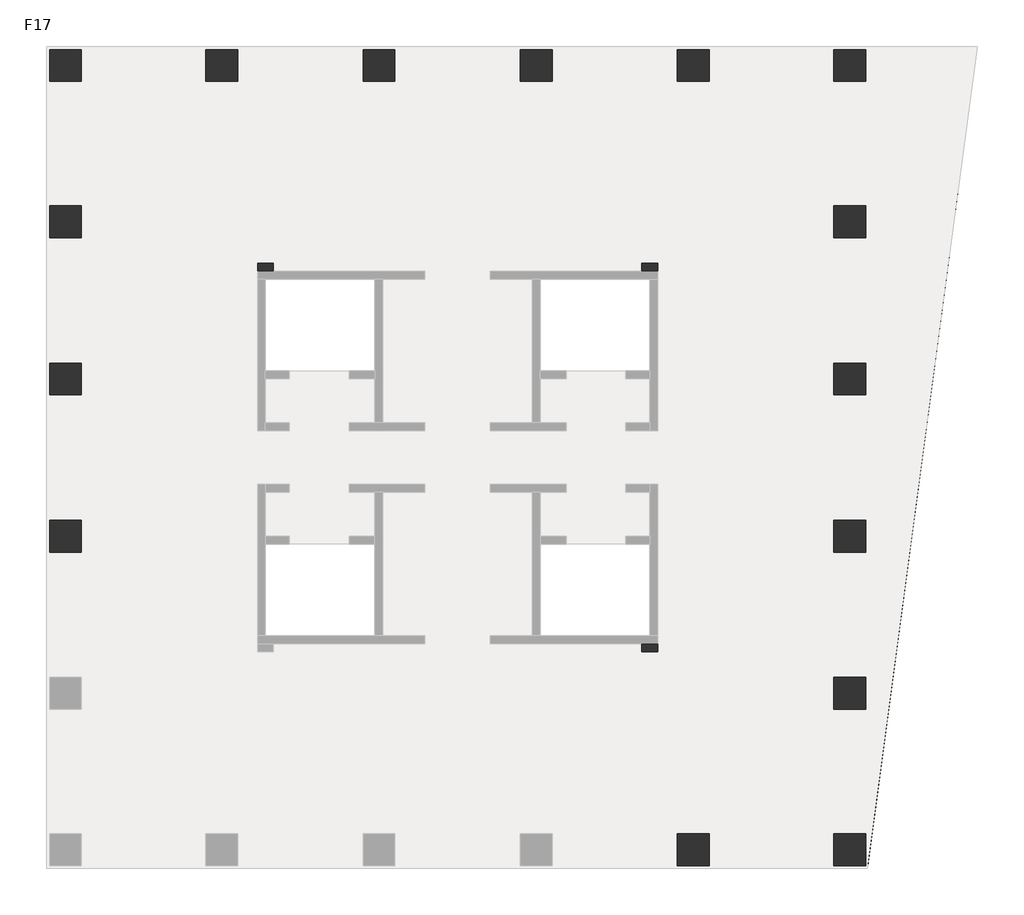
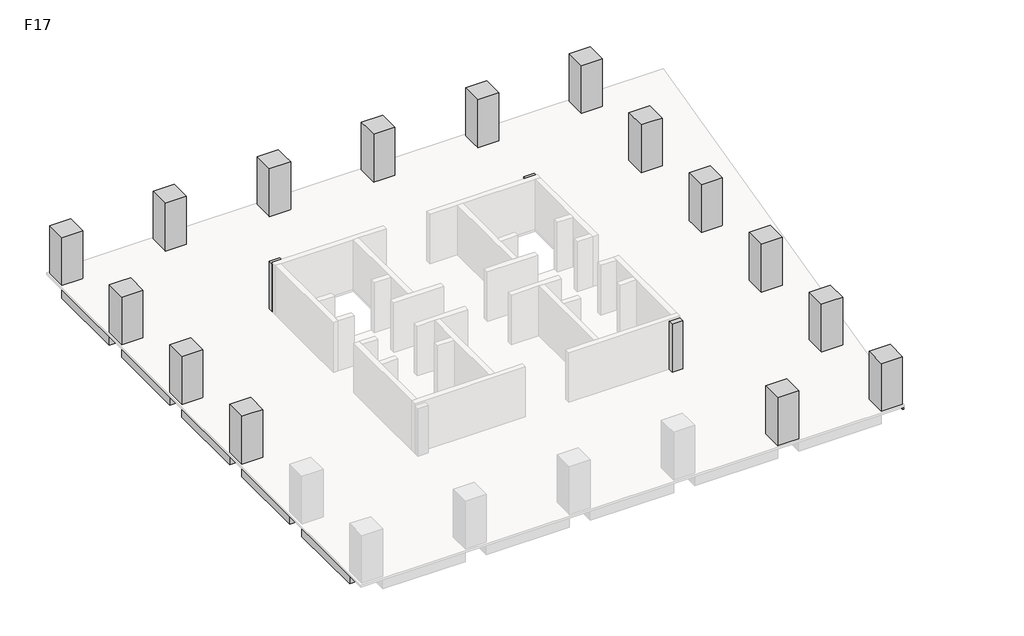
# One storey, part 2 of 2: 21 beams, 18 columns.
"""IFC4 building model written with IfcOpenShell, lengths in millimetres."""

from ifc_helpers import new_model, si_unit, frame, origin, place, context, project, spatial, polyline, outline, extrude, faceted_brep, element, save

model = new_model("IFC4")

# Units and contexts
model_context = context("Model", 3, world=origin())
ifc_project = project(units=[si_unit("LENGTHUNIT", "METRE", prefix="MILLI")], contexts=[model_context])

# Site, building, storey
site = spatial("IfcSite", under=ifc_project)
building = spatial("IfcBuilding", under=site)
storey = spatial("IfcBuildingStorey", under=building, Name="F17", Elevation=68000.0)

# Beams
placement = place(None, origin())
element("IfcBeam", 1, ObjectType="混凝土 - 矩形梁 : KL(5)-800x1000", at=placement, inside=storey, context=model_context, shape_type="SweptSolid", body=[
    extrude(outline(polyline([(25327.3257831, 27051.0498658), (25327.3257831, 26251.0498658), (19077.3257831, 26251.0498658), (19077.3257831, 27051.0498658), (25327.3257831, 27051.0498658)])), frame((0.0, 0.0, 67000.0), z_axis=(0.0, 0.0, 1.0), x_axis=(1.0, 0.0, 0.0)), (0.0, 0.0, 1.0), 840.0),
    extrude(outline(polyline([(-12472.6742169, 26251.0498658), (-12472.6742169, 27051.0498658), (-6222.6742169, 27051.0498658), (-6222.6742169, 26251.0498658), (-12472.6742169, 26251.0498658)])), frame((0.0, 0.0, 67000.0), z_axis=(0.0, 0.0, 1.0), x_axis=(1.0, 0.0, 0.0)), (0.0, 0.0, 1.0), 840.0),
    extrude(outline(polyline([(-4622.6742169, 26251.0498658), (-4622.6742169, 27051.0498658), (1677.3257831, 27051.0498658), (1677.3257831, 26251.0498658), (-4622.6742169, 26251.0498658)])), frame((0.0, 0.0, 67000.0), z_axis=(0.0, 0.0, 1.0), x_axis=(1.0, 0.0, 0.0)), (0.0, 0.0, 1.0), 840.0),
    extrude(outline(polyline([(3277.3257831, 26251.0498658), (3277.3257831, 27051.0498658), (9577.3257831, 27051.0498658), (9577.3257831, 26251.0498658), (3277.3257831, 26251.0498658)])), frame((0.0, 0.0, 67000.0), z_axis=(0.0, 0.0, 1.0), x_axis=(1.0, 0.0, 0.0)), (0.0, 0.0, 1.0), 840.0),
    extrude(outline(polyline([(11177.3257831, 26251.0498658), (11177.3257831, 27051.0498658), (17477.3257831, 27051.0498658), (17477.3257831, 26251.0498658), (11177.3257831, 26251.0498658)])), frame((0.0, 0.0, 67000.0), z_axis=(0.0, 0.0, 1.0), x_axis=(1.0, 0.0, 0.0)), (0.0, 0.0, 1.0), 840.0),
])
element("IfcBeam", 2, ObjectType="混凝土 - 矩形梁 : KL(5)-800x1000", at=placement, inside=storey, context=model_context, shape_type="Brep", body=[
    faceted_brep([(26927.3257831, 26251.0498658, 67000.0), (32422.0087099, 26251.0498658, 67000.0), (32422.0087099, 26251.0498658, 67840.0), (32018.4257091, 26251.0498658, 67840.0), (26927.3257831, 26251.0498658, 67840.0), (32422.0087099, 27051.0498658, 67000.0), (26927.3257831, 27051.0498658, 67000.0), (26927.3257831, 27051.0498658, 67840.0), (32422.0087099, 27051.0498658, 67840.0)], [[[0, 1, 2, 3, 4]], [[5, 1, 0, 6]], [[5, 6, 7, 8]], [[1, 5, 8, 2]], [[6, 0, 4, 7]], [[4, 3, 2, 8, 7]]]),
])
element("IfcBeam", 3, ObjectType="混凝土 - 矩形梁 : KL(5)-800x1000", at=placement, inside=storey, context=model_context, shape_type="Brep", body=[
    faceted_brep([(26127.3257831, -6098.9501342, 67000.0), (26127.3257831, -12348.9501342, 67000.0), (26127.3257831, -12348.9501342, 67840.0), (26127.3257831, -6098.9501342, 67840.0), (26927.3257831, -12348.9501342, 67000.0), (26927.3257831, -6098.9501342, 67000.0), (26927.3257831, -6098.9501342, 67840.0), (26927.3257831, -11700.7859463, 67840.0), (26927.3257831, -12348.9501342, 67840.0)], [[[0, 1, 2, 3]], [[4, 1, 0, 5]], [[4, 5, 6, 7, 8]], [[1, 4, 8, 2]], [[5, 0, 3, 6]], [[3, 2, 8, 7, 6]]]),
    faceted_brep([(26927.3257831, 25451.0498658, 67000.0), (26127.3257831, 25451.0498658, 67000.0), (26127.3257831, 25451.0498658, 67840.0), (26927.3257831, 25451.0498658, 67840.0), (26127.3257831, 19201.0498658, 67000.0), (26927.3257831, 19201.0498658, 67000.0), (26927.3257831, 19201.0498658, 67840.0), (26127.3257831, 19201.0498658, 67840.0)], [[[0, 1, 2, 3]], [[4, 5, 6, 7]], [[1, 4, 7, 2]], [[1, 0, 5, 4]], [[5, 0, 3, 6]], [[3, 2, 7, 6]]]),
    faceted_brep([(26927.3257831, 17601.0498658, 67000.0), (26127.3257831, 17601.0498658, 67000.0), (26127.3257831, 17601.0498658, 67840.0), (26927.3257831, 17601.0498658, 67840.0), (26127.3257831, 11301.0498658, 67000.0), (26927.3257831, 11301.0498658, 67000.0), (26927.3257831, 11301.0498658, 67840.0), (26127.3257831, 11301.0498658, 67840.0)], [[[0, 1, 2, 3]], [[4, 5, 6, 7]], [[1, 4, 7, 2]], [[1, 0, 5, 4]], [[5, 0, 3, 6]], [[3, 2, 7, 6]]]),
    faceted_brep([(26927.3257831, 9701.0498658, 67000.0), (26127.3257831, 9701.0498658, 67000.0), (26127.3257831, 9701.0498658, 67840.0), (26927.3257831, 9701.0498658, 67840.0), (26127.3257831, 3401.0498658, 67000.0), (26927.3257831, 3401.0498658, 67000.0), (26927.3257831, 3401.0498658, 67840.0), (26127.3257831, 3401.0498658, 67840.0)], [[[0, 1, 2, 3]], [[4, 5, 6, 7]], [[1, 4, 7, 2]], [[1, 0, 5, 4]], [[5, 0, 3, 6]], [[3, 2, 7, 6]]]),
    faceted_brep([(26927.3257831, 1801.0498658, 67000.0), (26127.3257831, 1801.0498658, 67000.0), (26127.3257831, 1801.0498658, 67840.0), (26927.3257831, 1801.0498658, 67840.0), (26127.3257831, -4498.9501342, 67000.0), (26927.3257831, -4498.9501342, 67000.0), (26927.3257831, -4498.9501342, 67840.0), (26127.3257831, -4498.9501342, 67840.0)], [[[0, 1, 2, 3]], [[4, 5, 6, 7]], [[1, 4, 7, 2]], [[1, 0, 5, 4]], [[5, 0, 3, 6]], [[3, 2, 7, 6]]]),
])
element("IfcBeam", 4, ObjectType="混凝土 - 矩形梁 : KL(5)-800x1000", at=placement, inside=storey, context=model_context, shape_type="SweptSolid", body=[
    extrude(outline(polyline([(-14072.6742169, 25451.0498658), (-13272.6742169, 25451.0498658), (-13272.6742169, 19201.0498658), (-14072.6742169, 19201.0498658), (-14072.6742169, 25451.0498658)])), frame((0.0, 0.0, 67000.0), z_axis=(0.0, 0.0, 1.0), x_axis=(1.0, 0.0, 0.0)), (0.0, 0.0, 1.0), 840.0),
    extrude(outline(polyline([(-13272.6742169, -12348.9501342), (-14072.6742169, -12348.9501342), (-14072.6742169, -6098.9501342), (-13272.6742169, -6098.9501342), (-13272.6742169, -12348.9501342)])), frame((0.0, 0.0, 67000.0), z_axis=(0.0, 0.0, 1.0), x_axis=(1.0, 0.0, 0.0)), (0.0, 0.0, 1.0), 840.0),
    extrude(outline(polyline([(-14072.6742169, 17601.0498658), (-13272.6742169, 17601.0498658), (-13272.6742169, 11301.0498658), (-14072.6742169, 11301.0498658), (-14072.6742169, 17601.0498658)])), frame((0.0, 0.0, 67000.0), z_axis=(0.0, 0.0, 1.0), x_axis=(1.0, 0.0, 0.0)), (0.0, 0.0, 1.0), 840.0),
    extrude(outline(polyline([(-14072.6742169, 9701.0498658), (-13272.6742169, 9701.0498658), (-13272.6742169, 3401.0498658), (-14072.6742169, 3401.0498658), (-14072.6742169, 9701.0498658)])), frame((0.0, 0.0, 67000.0), z_axis=(0.0, 0.0, 1.0), x_axis=(1.0, 0.0, 0.0)), (0.0, 0.0, 1.0), 840.0),
    extrude(outline(polyline([(-14072.6742169, 1801.0498658), (-13272.6742169, 1801.0498658), (-13272.6742169, -4498.9501342), (-14072.6742169, -4498.9501342), (-14072.6742169, 1801.0498658)])), frame((0.0, 0.0, 67000.0), z_axis=(0.0, 0.0, 1.0), x_axis=(1.0, 0.0, 0.0)), (0.0, 0.0, 1.0), 840.0),
])
element("IfcBeam", 5, ObjectType="混凝土 - 矩形梁 : L1-800x500", at=placement, inside=storey, context=model_context, shape_type="SweptSolid", body=[
    extrude(outline(polyline([(-12472.6742169, 2201.0498658), (-12472.6742169, 3001.0498658), (-3622.6742169, 3001.0498658), (-3622.6742169, 2201.0498658), (-12472.6742169, 2201.0498658)])), frame((0.0, 0.0, 67500.0), z_axis=(0.0, 0.0, 1.0), x_axis=(1.0, 0.0, 0.0)), (0.0, 0.0, 1.0), 340.0),
])
element("IfcBeam", 6, ObjectType="混凝土 - 矩形梁 : L1-800x500", at=placement, inside=storey, context=model_context, shape_type="SweptSolid", body=[
    extrude(outline(polyline([(-12472.6742169, 10101.0498658), (-12472.6742169, 10901.0498658), (-3622.6742169, 10901.0498658), (-3622.6742169, 10101.0498658), (-12472.6742169, 10101.0498658)])), frame((0.0, 0.0, 67500.0), z_axis=(0.0, 0.0, 1.0), x_axis=(1.0, 0.0, 0.0)), (0.0, 0.0, 1.0), 340.0),
])
element("IfcBeam", 7, ObjectType="混凝土 - 矩形梁 : L1-800x500", at=placement, inside=storey, context=model_context, shape_type="Brep", body=[
    faceted_brep([(-12472.6742169, 17789.85471, 67500.0), (-3622.6742169, 15588.3621727, 67500.0), (-3622.6742169, 15588.3621727, 67840.0), (-12472.6742169, 17789.85471, 67840.0), (-3173.6696907, 16301.0498658, 67500.0), (-3622.6742169, 16301.0498658, 67500.0), (-3622.6742169, 15901.0498658, 67500.0), (-12472.6742169, 18614.2350714, 67500.0), (-3746.9473979, 16443.6562607, 67500.0), (-12472.6742169, 18614.2350714, 67840.0), (-3746.9473979, 16443.6562607, 67840.0), (-3173.6696907, 16301.0498658, 67840.0), (-3622.6742169, 16301.0498658, 67840.0)], [[[0, 1, 2, 3]], [[4, 5, 6, 1, 0, 7, 8]], [[4, 8, 7, 9, 10, 11]], [[6, 5, 12, 2, 1]], [[5, 4, 11, 12]], [[7, 0, 3, 9]], [[3, 2, 12, 11, 10, 9]]]),
])
element("IfcBeam", 8, ObjectType="混凝土 - 矩形梁 : L1-800x500", at=placement, inside=storey, context=model_context, shape_type="SweptSolid", body=[
    extrude(outline(polyline([(-3173.6696907, 16301.0498658), (-3746.9473979, 16443.6562607), (-5661.5624638, 25451.0498658), (-4843.6893517, 25451.0498658), (-2898.7618154, 16301.0498658), (-3173.6696907, 16301.0498658)])), frame((0.0, 0.0, 67500.0), z_axis=(0.0, 0.0, 1.0), x_axis=(1.0, 0.0, 0.0)), (0.0, 0.0, 1.0), 340.0),
])
element("IfcBeam", 9, ObjectType="混凝土 - 矩形梁 : L1-800x500", at=placement, inside=storey, context=model_context, shape_type="SweptSolid", body=[
    extrude(outline(polyline([(2077.3257831, 25451.0498658), (2877.3257831, 25451.0498658), (2877.3257831, 15901.0498658), (2077.3257831, 15901.0498658), (2077.3257831, 25451.0498658)])), frame((0.0, 0.0, 67500.0), z_axis=(0.0, 0.0, 1.0), x_axis=(1.0, 0.0, 0.0)), (0.0, 0.0, 1.0), 340.0),
])
element("IfcBeam", 10, ObjectType="混凝土 - 矩形梁 : L1-800x500", at=placement, inside=storey, context=model_context, shape_type="SweptSolid", body=[
    extrude(outline(polyline([(9977.3257831, 25451.0498658), (10777.3257831, 25451.0498658), (10777.3257831, 15901.0498658), (9977.3257831, 15901.0498658), (9977.3257831, 25451.0498658)])), frame((0.0, 0.0, 67500.0), z_axis=(0.0, 0.0, 1.0), x_axis=(1.0, 0.0, 0.0)), (0.0, 0.0, 1.0), 340.0),
])
element("IfcBeam", 11, ObjectType="混凝土 - 矩形梁 : L1-800x500", at=placement, inside=storey, context=model_context, shape_type="Brep", body=[
    faceted_brep([(25327.3257831, -4687.7549784, 67500.0), (16477.3257831, -2486.2624411, 67500.0), (16477.3257831, -2486.2624411, 67840.0), (25327.3257831, -4687.7549784, 67840.0), (16028.3212569, -3198.9501342, 67500.0), (16477.3257831, -3198.9501342, 67500.0), (16477.3257831, -2798.9501342, 67500.0), (25327.3257831, -5512.1353397, 67500.0), (16601.5989641, -3341.556529, 67500.0), (25327.3257831, -5512.1353397, 67840.0), (16601.5989641, -3341.556529, 67840.0), (16028.3212569, -3198.9501342, 67840.0), (16477.3257831, -3198.9501342, 67840.0)], [[[0, 1, 2, 3]], [[4, 5, 6, 1, 0, 7, 8]], [[4, 8, 7, 9, 10, 11]], [[6, 5, 12, 2, 1]], [[5, 4, 11, 12]], [[7, 0, 3, 9]], [[3, 2, 12, 11, 10, 9]]]),
])
element("IfcBeam", 12, ObjectType="混凝土 - 矩形梁 : L1-800x500", at=placement, inside=storey, context=model_context, shape_type="SweptSolid", body=[
    extrude(outline(polyline([(16028.3212569, -3198.9501342), (16601.5989641, -3341.556529), (18516.21403, -12348.9501342), (17698.3409179, -12348.9501342), (15753.4133817, -3198.9501342), (16028.3212569, -3198.9501342)])), frame((0.0, 0.0, 67500.0), z_axis=(0.0, 0.0, 1.0), x_axis=(1.0, 0.0, 0.0)), (0.0, 0.0, 1.0), 340.0),
])
element("IfcBeam", 13, ObjectType="混凝土 - 矩形梁 : L1-800x500", at=placement, inside=storey, context=model_context, shape_type="SweptSolid", body=[
    extrude(outline(polyline([(25327.3257831, 3001.0498658), (25327.3257831, 2201.0498658), (16477.3257831, 2201.0498658), (16477.3257831, 3001.0498658), (25327.3257831, 3001.0498658)])), frame((0.0, 0.0, 67500.0), z_axis=(0.0, 0.0, 1.0), x_axis=(1.0, 0.0, 0.0)), (0.0, 0.0, 1.0), 340.0),
])
element("IfcBeam", 14, ObjectType="混凝土 - 矩形梁 : L1-800x500", at=placement, inside=storey, context=model_context, shape_type="SweptSolid", body=[
    extrude(outline(polyline([(25327.3257831, 10901.0498658), (25327.3257831, 10101.0498658), (16477.3257831, 10101.0498658), (16477.3257831, 10901.0498658), (25327.3257831, 10901.0498658)])), frame((0.0, 0.0, 67500.0), z_axis=(0.0, 0.0, 1.0), x_axis=(1.0, 0.0, 0.0)), (0.0, 0.0, 1.0), 340.0),
])
element("IfcBeam", 15, ObjectType="混凝土 - 矩形梁 : L1-800x500", at=placement, inside=storey, context=model_context, shape_type="Brep", body=[
    faceted_brep([(25327.3257831, 18610.6867312, 67500.0), (16590.8993897, 16393.3196262, 67500.0), (16227.3565337, 16301.0498658, 67500.0), (16227.3565337, 16301.0498658, 67840.0), (16590.8993897, 16393.3196262, 67840.0), (25327.3257831, 18610.6867312, 67840.0), (16477.3257831, 16301.0498658, 67500.0), (25327.3257831, 17785.3216299, 67500.0), (16477.3257831, 15539.1287365, 67500.0), (16477.3257831, 15901.0498658, 67500.0), (25327.3257831, 17785.3216299, 67840.0), (16477.3257831, 15539.1287365, 67840.0), (16477.3257831, 16301.0498658, 67840.0)], [[[0, 1, 2, 3, 4, 5]], [[6, 2, 1, 0, 7, 8, 9]], [[8, 7, 10, 11]], [[9, 8, 11, 12, 6]], [[2, 6, 12, 3]], [[7, 0, 5, 10]], [[5, 4, 3, 12, 11, 10]]]),
])
element("IfcBeam", 16, ObjectType="混凝土 - 矩形梁 : L1-800x500", at=placement, inside=storey, context=model_context, shape_type="SweptSolid", body=[
    extrude(outline(polyline([(16590.8993897, 16393.3196262), (16227.3565337, 16301.0498658), (15753.4133817, 16301.0498658), (17698.3409179, 25451.0498658), (18516.21403, 25451.0498658), (16590.8993897, 16393.3196262)])), frame((0.0, 0.0, 67500.0), z_axis=(0.0, 0.0, 1.0), x_axis=(1.0, 0.0, 0.0)), (0.0, 0.0, 1.0), 340.0),
])
element("IfcBeam", 17, ObjectType="混凝土 - 矩形梁 : L2-400x400", at=placement, inside=storey, context=model_context, shape_type="Brep", body=[
    faceted_brep([(32422.0087099, 26251.0498658, 67600.0), (27029.3257831, -13948.9501342, 67600.0), (26927.3257831, -13935.2672073, 67600.0), (26927.3257831, -11700.7859463, 67600.0), (27759.2793677, -5498.9501342, 67600.0), (27812.9379042, -5098.9501342, 67600.0), (28819.0354652, 2401.0498658, 67600.0), (28872.6940018, 2801.0498658, 67600.0), (29878.7915628, 10301.0498658, 67600.0), (29932.4500994, 10701.0498658, 67600.0), (30938.5476603, 18201.0498658, 67600.0), (30992.2061969, 18601.0498658, 67600.0), (32018.4257091, 26251.0498658, 67600.0), (32422.0087099, 26251.0498658, 67840.0), (27029.3257831, -13948.9501342, 67840.0), (32018.4257091, 26251.0498658, 67840.0), (26927.3257831, -13935.2672073, 67840.0), (26927.3257831, -12348.9501342, 67840.0), (26927.3257831, -11700.7859463, 67840.0), (27759.2793677, -5498.9501342, 67840.0), (27812.9379042, -5098.9501342, 67840.0), (28819.0354652, 2401.0498658, 67840.0), (28872.6940018, 2801.0498658, 67840.0), (29878.7915628, 10301.0498658, 67840.0), (29932.4500994, 10701.0498658, 67840.0), (30938.5476603, 18201.0498658, 67840.0), (30992.2061969, 18601.0498658, 67840.0)], [[[0, 1, 2, 3, 4, 5, 6, 7, 8, 9, 10, 11, 12]], [[1, 0, 13, 14]], [[0, 12, 15, 13]], [[3, 2, 16, 17, 18]], [[12, 11, 10, 9, 8, 7, 6, 5, 4, 3, 18, 19, 20, 21, 22, 23, 24, 25, 26, 15]], [[2, 1, 14, 16]], [[14, 13, 15, 26, 25, 24, 23, 22, 21, 20, 19, 18, 17, 16]]]),
])
element("IfcBeam", 18, ObjectType="混凝土 - 矩形梁 : L2-400x400", at=placement, inside=storey, context=model_context, shape_type="SweptSolid", body=[
    extrude(outline(polyline([(30938.5476603, 18201.0498658), (26927.3257831, 18201.0498658), (26927.3257831, 18601.0498658), (30992.2061969, 18601.0498658), (30938.5476603, 18201.0498658)])), frame((0.0, 0.0, 67600.0), z_axis=(0.0, 0.0, 1.0), x_axis=(1.0, 0.0, 0.0)), (0.0, 0.0, 1.0), 240.0),
])
element("IfcBeam", 19, ObjectType="混凝土 - 矩形梁 : L2-400x400", at=placement, inside=storey, context=model_context, shape_type="SweptSolid", body=[
    extrude(outline(polyline([(29878.7915628, 10301.0498658), (26927.3257831, 10301.0498658), (26927.3257831, 10701.0498658), (29932.4500994, 10701.0498658), (29878.7915628, 10301.0498658)])), frame((0.0, 0.0, 67600.0), z_axis=(0.0, 0.0, 1.0), x_axis=(1.0, 0.0, 0.0)), (0.0, 0.0, 1.0), 240.0),
])
element("IfcBeam", 20, ObjectType="混凝土 - 矩形梁 : L2-400x400", at=placement, inside=storey, context=model_context, shape_type="SweptSolid", body=[
    extrude(outline(polyline([(28819.0354652, 2401.0498658), (26927.3257831, 2401.0498658), (26927.3257831, 2801.0498658), (28872.6940018, 2801.0498658), (28819.0354652, 2401.0498658)])), frame((0.0, 0.0, 67600.0), z_axis=(0.0, 0.0, 1.0), x_axis=(1.0, 0.0, 0.0)), (0.0, 0.0, 1.0), 240.0),
])
element("IfcBeam", 21, ObjectType="混凝土 - 矩形梁 : L2-400x400", at=placement, inside=storey, context=model_context, shape_type="SweptSolid", body=[
    extrude(outline(polyline([(27759.2793677, -5498.9501342), (26927.3257831, -5498.9501342), (26927.3257831, -5098.9501342), (27812.9379042, -5098.9501342), (27759.2793677, -5498.9501342)])), frame((0.0, 0.0, 67600.0), z_axis=(0.0, 0.0, 1.0), x_axis=(1.0, 0.0, 0.0)), (0.0, 0.0, 1.0), 240.0),
])

# Columns
element("IfcColumn", 22, ObjectType="混凝土 - 矩形 - 柱 : Z1-1600x1600", at=placement, inside=storey, context=model_context, shape_type="SweptSolid", body=[
    extrude(outline(polyline([(-12472.6742169, 27051.0498658), (-12472.6742169, 25451.0498658), (-14072.6742169, 25451.0498658), (-14072.6742169, 27051.0498658), (-12472.6742169, 27051.0498658)])), frame((0.0, 0.0, 68000.0), z_axis=(0.0, 0.0, 1.0), x_axis=(1.0, 0.0, 0.0)), (0.0, 0.0, 1.0), 3840.0),
])
element("IfcColumn", 23, ObjectType="混凝土 - 矩形 - 柱 : Z1-1600x1600", at=placement, inside=storey, context=model_context, shape_type="Brep", body=[
    faceted_brep([(-4622.6742169, 27051.0498658, 68000.0), (-4622.6742169, 25451.0498658, 68000.0), (-6222.6742169, 25451.0498658, 68000.0), (-6222.6742169, 27051.0498658, 68000.0), (-4622.6742169, 27051.0498658, 71000.0), (-4622.6742169, 27051.0498658, 71840.0), (-4622.6742169, 26251.0498658, 71840.0), (-4622.6742169, 25451.0498658, 71840.0), (-6222.6742169, 25451.0498658, 71840.0), (-6222.6742169, 26251.0498658, 71840.0), (-6222.6742169, 27051.0498658, 71840.0), (-6222.6742169, 27051.0498658, 71000.0)], [[[0, 1, 2, 3]], [[1, 0, 4, 5, 6, 7]], [[2, 1, 7, 8]], [[3, 2, 8, 9, 10, 11]], [[0, 3, 11, 10, 5, 4]], [[7, 6, 5, 10, 9, 8]]]),
])
element("IfcColumn", 24, ObjectType="混凝土 - 矩形 - 柱 : Z1-1600x1600", at=placement, inside=storey, context=model_context, shape_type="Brep", body=[
    faceted_brep([(-12472.6742169, 19201.0498658, 68000.0), (-12472.6742169, 17601.0498658, 68000.0), (-14072.6742169, 17601.0498658, 68000.0), (-14072.6742169, 19201.0498658, 68000.0), (-12472.6742169, 19201.0498658, 71840.0), (-12472.6742169, 17601.0498658, 71840.0), (-13272.6742169, 17601.0498658, 71840.0), (-14072.6742169, 17601.0498658, 71840.0), (-14072.6742169, 17601.0498658, 71000.0), (-14072.6742169, 19201.0498658, 71840.0), (-14072.6742169, 19201.0498658, 71000.0), (-13272.6742169, 19201.0498658, 71840.0)], [[[0, 1, 2, 3]], [[1, 0, 4, 5]], [[2, 1, 5, 6, 7, 8]], [[3, 2, 8, 7, 9, 10]], [[0, 3, 10, 9, 11, 4]], [[5, 4, 11, 9, 7, 6]]]),
])
element("IfcColumn", 25, ObjectType="混凝土 - 矩形 - 柱 : Z1-1600x1600", at=placement, inside=storey, context=model_context, shape_type="Brep", body=[
    faceted_brep([(-12472.6742169, 11301.0498658, 68000.0), (-12472.6742169, 9701.0498658, 68000.0), (-14072.6742169, 9701.0498658, 68000.0), (-14072.6742169, 11301.0498658, 68000.0), (-12472.6742169, 11301.0498658, 71840.0), (-12472.6742169, 9701.0498658, 71840.0), (-13272.6742169, 9701.0498658, 71840.0), (-14072.6742169, 9701.0498658, 71840.0), (-14072.6742169, 9701.0498658, 71000.0), (-14072.6742169, 11301.0498658, 71840.0), (-14072.6742169, 11301.0498658, 71000.0), (-13272.6742169, 11301.0498658, 71840.0)], [[[0, 1, 2, 3]], [[1, 0, 4, 5]], [[2, 1, 5, 6, 7, 8]], [[3, 2, 8, 7, 9, 10]], [[0, 3, 10, 9, 11, 4]], [[5, 4, 11, 9, 7, 6]]]),
])
element("IfcColumn", 26, ObjectType="混凝土 - 矩形 - 柱 : Z1-1600x1600", at=placement, inside=storey, context=model_context, shape_type="Brep", body=[
    faceted_brep([(-12472.6742169, 3401.0498658, 68000.0), (-12472.6742169, 1801.0498658, 68000.0), (-14072.6742169, 1801.0498658, 68000.0), (-14072.6742169, 3401.0498658, 68000.0), (-12472.6742169, 3401.0498658, 71840.0), (-12472.6742169, 1801.0498658, 71840.0), (-13272.6742169, 1801.0498658, 71840.0), (-14072.6742169, 1801.0498658, 71840.0), (-14072.6742169, 1801.0498658, 71000.0), (-14072.6742169, 3401.0498658, 71840.0), (-14072.6742169, 3401.0498658, 71000.0), (-13272.6742169, 3401.0498658, 71840.0)], [[[0, 1, 2, 3]], [[1, 0, 4, 5]], [[2, 1, 5, 6, 7, 8]], [[3, 2, 8, 7, 9, 10]], [[0, 3, 10, 9, 11, 4]], [[5, 4, 11, 9, 7, 6]]]),
])
element("IfcColumn", 27, ObjectType="混凝土 - 矩形 - 柱 : Z1-1600x1600", at=placement, inside=storey, context=model_context, shape_type="SweptSolid", body=[
    extrude(outline(polyline([(25327.3257831, 27051.0498658), (26927.3257831, 27051.0498658), (26927.3257831, 25451.0498658), (25327.3257831, 25451.0498658), (25327.3257831, 27051.0498658)])), frame((0.0, 0.0, 68000.0), z_axis=(0.0, 0.0, 1.0), x_axis=(1.0, 0.0, 0.0)), (0.0, 0.0, 1.0), 3840.0),
])
element("IfcColumn", 28, ObjectType="混凝土 - 矩形 - 柱 : Z1-1600x1600", at=placement, inside=storey, context=model_context, shape_type="Brep", body=[
    faceted_brep([(25327.3257831, 19201.0498658, 68000.0), (26927.3257831, 19201.0498658, 68000.0), (26927.3257831, 17601.0498658, 68000.0), (25327.3257831, 17601.0498658, 68000.0), (25327.3257831, 17601.0498658, 71840.0), (25327.3257831, 19201.0498658, 71840.0), (26927.3257831, 17601.0498658, 71000.0), (26927.3257831, 17601.0498658, 71840.0), (26127.3257831, 17601.0498658, 71840.0), (26927.3257831, 19201.0498658, 71000.0), (26927.3257831, 19201.0498658, 71840.0), (26127.3257831, 19201.0498658, 71840.0)], [[[0, 1, 2, 3]], [[0, 3, 4, 5]], [[3, 2, 6, 7, 8, 4]], [[2, 1, 9, 10, 7, 6]], [[1, 0, 5, 11, 10, 9]], [[5, 4, 8, 7, 10, 11]]]),
])
element("IfcColumn", 29, ObjectType="混凝土 - 矩形 - 柱 : Z1-1600x1600", at=placement, inside=storey, context=model_context, shape_type="Brep", body=[
    faceted_brep([(25327.3257831, 11301.0498658, 68000.0), (26927.3257831, 11301.0498658, 68000.0), (26927.3257831, 9701.0498658, 68000.0), (25327.3257831, 9701.0498658, 68000.0), (25327.3257831, 9701.0498658, 71840.0), (25327.3257831, 11301.0498658, 71840.0), (26927.3257831, 9701.0498658, 71000.0), (26927.3257831, 9701.0498658, 71840.0), (26127.3257831, 9701.0498658, 71840.0), (26927.3257831, 11301.0498658, 71000.0), (26927.3257831, 11301.0498658, 71840.0), (26127.3257831, 11301.0498658, 71840.0)], [[[0, 1, 2, 3]], [[0, 3, 4, 5]], [[3, 2, 6, 7, 8, 4]], [[2, 1, 9, 10, 7, 6]], [[1, 0, 5, 11, 10, 9]], [[5, 4, 8, 7, 10, 11]]]),
])
element("IfcColumn", 30, ObjectType="混凝土 - 矩形 - 柱 : Z1-1600x1600", at=placement, inside=storey, context=model_context, shape_type="Brep", body=[
    faceted_brep([(25327.3257831, 3401.0498658, 68000.0), (26927.3257831, 3401.0498658, 68000.0), (26927.3257831, 1801.0498658, 68000.0), (25327.3257831, 1801.0498658, 68000.0), (25327.3257831, 1801.0498658, 71840.0), (25327.3257831, 3401.0498658, 71840.0), (26927.3257831, 1801.0498658, 71000.0), (26927.3257831, 1801.0498658, 71840.0), (26127.3257831, 1801.0498658, 71840.0), (26927.3257831, 3401.0498658, 71000.0), (26927.3257831, 3401.0498658, 71840.0), (26127.3257831, 3401.0498658, 71840.0)], [[[0, 1, 2, 3]], [[0, 3, 4, 5]], [[3, 2, 6, 7, 8, 4]], [[2, 1, 9, 10, 7, 6]], [[1, 0, 5, 11, 10, 9]], [[5, 4, 8, 7, 10, 11]]]),
])
element("IfcColumn", 31, ObjectType="混凝土 - 矩形 - 柱 : Z1-1600x1600", at=placement, inside=storey, context=model_context, shape_type="Brep", body=[
    faceted_brep([(25327.3257831, -4498.9501342, 68000.0), (26927.3257831, -4498.9501342, 68000.0), (26927.3257831, -6098.9501342, 68000.0), (25327.3257831, -6098.9501342, 68000.0), (25327.3257831, -6098.9501342, 71840.0), (25327.3257831, -4498.9501342, 71840.0), (26927.3257831, -6098.9501342, 71000.0), (26927.3257831, -6098.9501342, 71840.0), (26127.3257831, -6098.9501342, 71840.0), (26927.3257831, -4498.9501342, 71000.0), (26927.3257831, -4498.9501342, 71840.0), (26127.3257831, -4498.9501342, 71840.0)], [[[0, 1, 2, 3]], [[0, 3, 4, 5]], [[3, 2, 6, 7, 8, 4]], [[2, 1, 9, 10, 7, 6]], [[1, 0, 5, 11, 10, 9]], [[5, 4, 8, 7, 10, 11]]]),
])
element("IfcColumn", 32, ObjectType="混凝土 - 矩形 - 柱 : Z1-1600x1600", at=placement, inside=storey, context=model_context, shape_type="SweptSolid", body=[
    extrude(outline(polyline([(25327.3257831, -12348.9501342), (26927.3257831, -12348.9501342), (26927.3257831, -13948.9501342), (25327.3257831, -13948.9501342), (25327.3257831, -12348.9501342)])), frame((0.0, 0.0, 68000.0), z_axis=(0.0, 0.0, 1.0), x_axis=(1.0, 0.0, 0.0)), (0.0, 0.0, 1.0), 3840.0),
])
element("IfcColumn", 33, ObjectType="混凝土 - 矩形 - 柱 : Z1-1600x1600", at=placement, inside=storey, context=model_context, shape_type="Brep", body=[
    faceted_brep([(3277.3257831, 27051.0498658, 68000.0), (3277.3257831, 25451.0498658, 68000.0), (1677.3257831, 25451.0498658, 68000.0), (1677.3257831, 27051.0498658, 68000.0), (3277.3257831, 27051.0498658, 71000.0), (3277.3257831, 27051.0498658, 71840.0), (3277.3257831, 26251.0498658, 71840.0), (3277.3257831, 25451.0498658, 71840.0), (1677.3257831, 25451.0498658, 71840.0), (1677.3257831, 26251.0498658, 71840.0), (1677.3257831, 27051.0498658, 71840.0), (1677.3257831, 27051.0498658, 71000.0)], [[[0, 1, 2, 3]], [[1, 0, 4, 5, 6, 7]], [[2, 1, 7, 8]], [[3, 2, 8, 9, 10, 11]], [[0, 3, 11, 10, 5, 4]], [[7, 6, 5, 10, 9, 8]]]),
])
element("IfcColumn", 34, ObjectType="混凝土 - 矩形 - 柱 : Z1-1600x1600", at=placement, inside=storey, context=model_context, shape_type="Brep", body=[
    faceted_brep([(11177.3257831, 27051.0498658, 68000.0), (11177.3257831, 25451.0498658, 68000.0), (9577.3257831, 25451.0498658, 68000.0), (9577.3257831, 27051.0498658, 68000.0), (11177.3257831, 27051.0498658, 71000.0), (11177.3257831, 27051.0498658, 71840.0), (11177.3257831, 26251.0498658, 71840.0), (11177.3257831, 25451.0498658, 71840.0), (9577.3257831, 25451.0498658, 71840.0), (9577.3257831, 26251.0498658, 71840.0), (9577.3257831, 27051.0498658, 71840.0), (9577.3257831, 27051.0498658, 71000.0)], [[[0, 1, 2, 3]], [[1, 0, 4, 5, 6, 7]], [[2, 1, 7, 8]], [[3, 2, 8, 9, 10, 11]], [[0, 3, 11, 10, 5, 4]], [[7, 6, 5, 10, 9, 8]]]),
])
element("IfcColumn", 35, ObjectType="混凝土 - 矩形 - 柱 : Z1-1600x1600", at=placement, inside=storey, context=model_context, shape_type="Brep", body=[
    faceted_brep([(19077.3257831, 27051.0498658, 68000.0), (19077.3257831, 25451.0498658, 68000.0), (17477.3257831, 25451.0498658, 68000.0), (17477.3257831, 27051.0498658, 68000.0), (19077.3257831, 27051.0498658, 71000.0), (19077.3257831, 27051.0498658, 71840.0), (19077.3257831, 26251.0498658, 71840.0), (19077.3257831, 25451.0498658, 71840.0), (17477.3257831, 25451.0498658, 71840.0), (17477.3257831, 26251.0498658, 71840.0), (17477.3257831, 27051.0498658, 71840.0), (17477.3257831, 27051.0498658, 71000.0)], [[[0, 1, 2, 3]], [[1, 0, 4, 5, 6, 7]], [[2, 1, 7, 8]], [[3, 2, 8, 9, 10, 11]], [[0, 3, 11, 10, 5, 4]], [[7, 6, 5, 10, 9, 8]]]),
])
element("IfcColumn", 36, ObjectType="混凝土 - 矩形 - 柱 : Z1-1600x1600", at=placement, inside=storey, context=model_context, shape_type="Brep", body=[
    faceted_brep([(19077.3257831, -12348.9501342, 68000.0), (19077.3257831, -13948.9501342, 68000.0), (17477.3257831, -13948.9501342, 68000.0), (17477.3257831, -12348.9501342, 68000.0), (19077.3257831, -12348.9501342, 71840.0), (19077.3257831, -13148.9501342, 71840.0), (19077.3257831, -13948.9501342, 71840.0), (19077.3257831, -13948.9501342, 71000.0), (17477.3257831, -13948.9501342, 71840.0), (17477.3257831, -13948.9501342, 71000.0), (17477.3257831, -13148.9501342, 71840.0), (17477.3257831, -12348.9501342, 71840.0)], [[[0, 1, 2, 3]], [[1, 0, 4, 5, 6, 7]], [[2, 1, 7, 6, 8, 9]], [[3, 2, 9, 8, 10, 11]], [[0, 3, 11, 4]], [[6, 5, 4, 11, 10, 8]]]),
])
element("IfcColumn", 37, ObjectType="混凝土 - 矩形 - 柱 : Z2-800x800", at=placement, inside=storey, context=model_context, shape_type="SweptSolid", body=[
    extrude(outline(polyline([(-3622.6742169, 16301.0498658), (-2822.6742169, 16301.0498658), (-2822.6742169, 15901.0498658), (-3622.6742169, 15901.0498658), (-3622.6742169, 16301.0498658)])), frame((0.0, 0.0, 68000.0), z_axis=(0.0, 0.0, 1.0), x_axis=(1.0, 0.0, 0.0)), (0.0, 0.0, 1.0), 3840.0),
])
element("IfcColumn", 38, ObjectType="混凝土 - 矩形 - 柱 : Z2-800x800", at=placement, inside=storey, context=model_context, shape_type="SweptSolid", body=[
    extrude(outline(polyline([(16477.3257831, -3198.9501342), (15677.3257831, -3198.9501342), (15677.3257831, -2798.9501342), (16477.3257831, -2798.9501342), (16477.3257831, -3198.9501342)])), frame((0.0, 0.0, 68000.0), z_axis=(0.0, 0.0, 1.0), x_axis=(1.0, 0.0, 0.0)), (0.0, 0.0, 1.0), 3840.0),
])
element("IfcColumn", 39, ObjectType="混凝土 - 矩形 - 柱 : Z2-800x800", at=placement, inside=storey, context=model_context, shape_type="SweptSolid", body=[
    extrude(outline(polyline([(15677.3257831, 16301.0498658), (16477.3257831, 16301.0498658), (16477.3257831, 15901.0498658), (15677.3257831, 15901.0498658), (15677.3257831, 16301.0498658)])), frame((0.0, 0.0, 68000.0), z_axis=(0.0, 0.0, 1.0), x_axis=(1.0, 0.0, 0.0)), (0.0, 0.0, 1.0), 3840.0),
])

save(model, "model.ifc")
